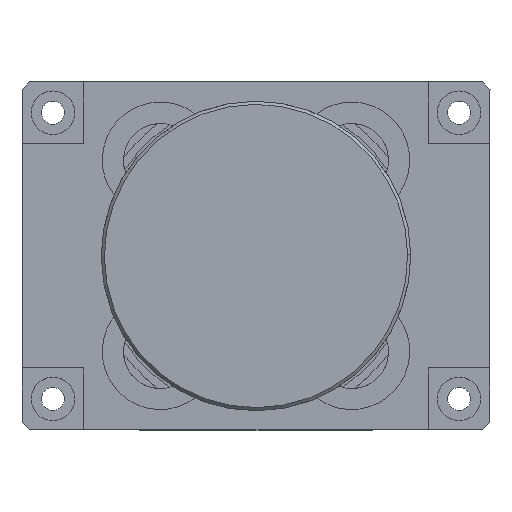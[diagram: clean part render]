
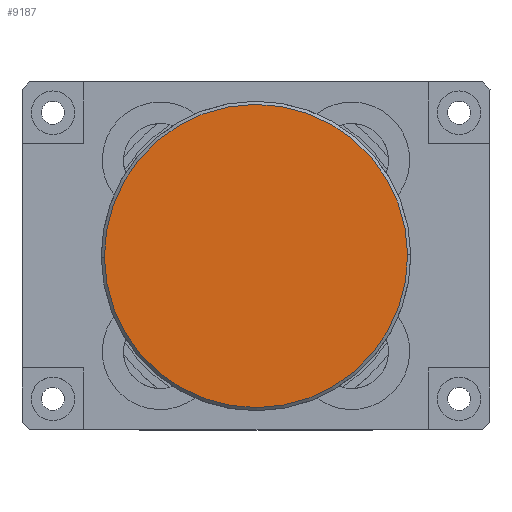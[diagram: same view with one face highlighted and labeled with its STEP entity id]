
A CAD part, top view. The second image highlights one B-rep face of the part: STEP entity #9187.
In plain terms, the highlighted planar face has unit normal (0, 0, 1).
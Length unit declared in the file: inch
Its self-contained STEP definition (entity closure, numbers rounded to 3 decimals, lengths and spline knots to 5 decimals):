
#2406 = AXIS2_PLACEMENT_3D ( 'NONE', #20085, #3335, #5411 ) ;
#3335 = DIRECTION ( 'NONE',  ( 0., 0., -1. ) ) ;
#3969 = DIRECTION ( 'NONE',  ( 0., 0., 1. ) ) ;
#5411 = DIRECTION ( 'NONE',  ( -1., -0.008, 0. ) ) ;
#5539 = AXIS2_PLACEMENT_3D ( 'NONE', #14968, #3969, #7659 ) ;
#5779 = FACE_OUTER_BOUND ( 'NONE', #6045, .T. ) ;
#6045 = EDGE_LOOP ( 'NONE', ( #17402, #11651 ) ) ;
#7659 = DIRECTION ( 'NONE',  ( -1., -0.008, 0. ) ) ;
#9119 = PLANE ( 'NONE',  #2406 ) ;
#9187 = ADVANCED_FACE ( 'NONE', ( #5779 ), #9119, .F. ) ;
#11651 = ORIENTED_EDGE ( 'NONE', *, *, #15327, .T. ) ;
#12288 = DIRECTION ( 'NONE',  ( 0., 0., 1. ) ) ;
#12362 = CIRCLE ( 'NONE', #5539, 0.98 ) ;
#12743 = CARTESIAN_POINT ( 'NONE',  ( 0.97997, 0.00487, 1.67293 ) ) ;
#14461 = CARTESIAN_POINT ( 'NONE',  ( 0., -0.00255, 1.67293 ) ) ;
#14968 = CARTESIAN_POINT ( 'NONE',  ( 0., -0.00255, 1.67293 ) ) ;
#15327 = EDGE_CURVE ( 'NONE', #22863, #21643, #12362, .T. ) ;
#16381 = AXIS2_PLACEMENT_3D ( 'NONE', #14461, #12288, #19651 ) ;
#16960 = EDGE_CURVE ( 'NONE', #21643, #22863, #17279, .T. ) ;
#17279 = CIRCLE ( 'NONE', #16381, 0.98 ) ;
#17402 = ORIENTED_EDGE ( 'NONE', *, *, #16960, .T. ) ;
#19651 = DIRECTION ( 'NONE',  ( -1., -0.008, 0. ) ) ;
#20085 = CARTESIAN_POINT ( 'NONE',  ( 0., -0.00255, 1.67293 ) ) ;
#21016 = CARTESIAN_POINT ( 'NONE',  ( -0.97997, -0.00998, 1.67293 ) ) ;
#21643 = VERTEX_POINT ( 'NONE', #21016 ) ;
#22863 = VERTEX_POINT ( 'NONE', #12743 ) ;
